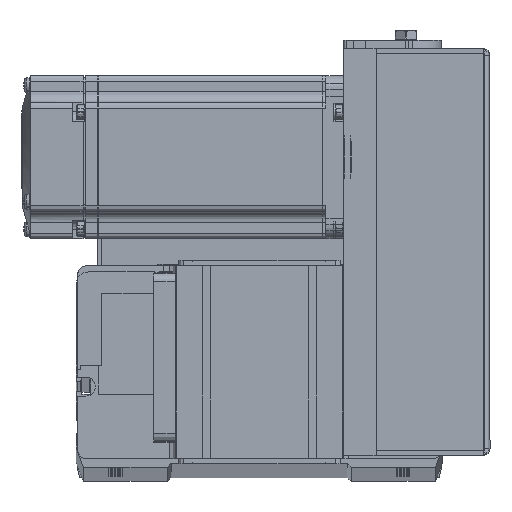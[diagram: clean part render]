
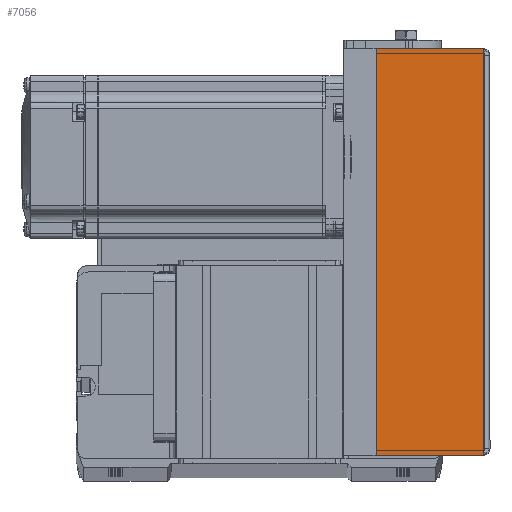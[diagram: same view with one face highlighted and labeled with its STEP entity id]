
A CAD part, top view. The second image highlights one B-rep face of the part: STEP entity #7056.
In plain terms, the highlighted planar face has unit normal (0, 0, 1) as drawn and (0, -1, 0) by its records, which use the part's own axes.
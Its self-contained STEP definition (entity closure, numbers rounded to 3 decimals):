
#1181 = CARTESIAN_POINT ( 'NONE',  ( -75., -36., 51.5 ) ) ;
#3767 = EDGE_CURVE ( 'NONE', #17817, #11213, #5426, .T. ) ;
#3878 = DIRECTION ( 'NONE',  ( 0., 0., -1. ) ) ;
#4508 = CARTESIAN_POINT ( 'NONE',  ( 75., -36., 51.5 ) ) ;
#5426 = LINE ( 'NONE', #11401, #5969 ) ;
#5969 = VECTOR ( 'NONE', #14687, 1000. ) ;
#6567 = PLANE ( 'NONE',  #11679 ) ;
#7056 = ADVANCED_FACE ( 'NONE', ( #34452 ), #6567, .F. ) ;
#7784 = CARTESIAN_POINT ( 'NONE',  ( 0., -36., 12. ) ) ;
#8597 = VECTOR ( 'NONE', #29306, 1000. ) ;
#10441 = LINE ( 'NONE', #1181, #15936 ) ;
#11213 = VERTEX_POINT ( 'NONE', #32011 ) ;
#11401 = CARTESIAN_POINT ( 'NONE',  ( 75., -36., 51.5 ) ) ;
#11679 = AXIS2_PLACEMENT_3D ( 'NONE', #28894, #12917, #31364 ) ;
#11750 = ORIENTED_EDGE ( 'NONE', *, *, #3767, .F. ) ;
#12917 = DIRECTION ( 'NONE',  ( 0., 1., 0. ) ) ;
#13798 = EDGE_CURVE ( 'NONE', #11213, #21127, #35290, .T. ) ;
#14687 = DIRECTION ( 'NONE',  ( 1., 0., 0. ) ) ;
#15936 = VECTOR ( 'NONE', #3878, 1000. ) ;
#16857 = DIRECTION ( 'NONE',  ( 0., 0., -1. ) ) ;
#17817 = VERTEX_POINT ( 'NONE', #34481 ) ;
#20637 = VECTOR ( 'NONE', #16857, 1000. ) ;
#21127 = VERTEX_POINT ( 'NONE', #36744 ) ;
#22771 = CARTESIAN_POINT ( 'NONE',  ( -75., -36., 12. ) ) ;
#25498 = ORIENTED_EDGE ( 'NONE', *, *, #28107, .T. ) ;
#25843 = LINE ( 'NONE', #7784, #8597 ) ;
#28107 = EDGE_CURVE ( 'NONE', #17817, #38126, #10441, .T. ) ;
#28128 = ORIENTED_EDGE ( 'NONE', *, *, #38084, .T. ) ;
#28894 = CARTESIAN_POINT ( 'NONE',  ( 0., -36., 52. ) ) ;
#29306 = DIRECTION ( 'NONE',  ( 1., 0., 0. ) ) ;
#31364 = DIRECTION ( 'NONE',  ( 0., 0., -1. ) ) ;
#31618 = ORIENTED_EDGE ( 'NONE', *, *, #13798, .F. ) ;
#32011 = CARTESIAN_POINT ( 'NONE',  ( 75., -36., 51.5 ) ) ;
#34452 = FACE_OUTER_BOUND ( 'NONE', #36760, .T. ) ;
#34481 = CARTESIAN_POINT ( 'NONE',  ( -75., -36., 51.5 ) ) ;
#35290 = LINE ( 'NONE', #4508, #20637 ) ;
#36744 = CARTESIAN_POINT ( 'NONE',  ( 75., -36., 12. ) ) ;
#36760 = EDGE_LOOP ( 'NONE', ( #11750, #25498, #28128, #31618 ) ) ;
#38084 = EDGE_CURVE ( 'NONE', #38126, #21127, #25843, .T. ) ;
#38126 = VERTEX_POINT ( 'NONE', #22771 ) ;
